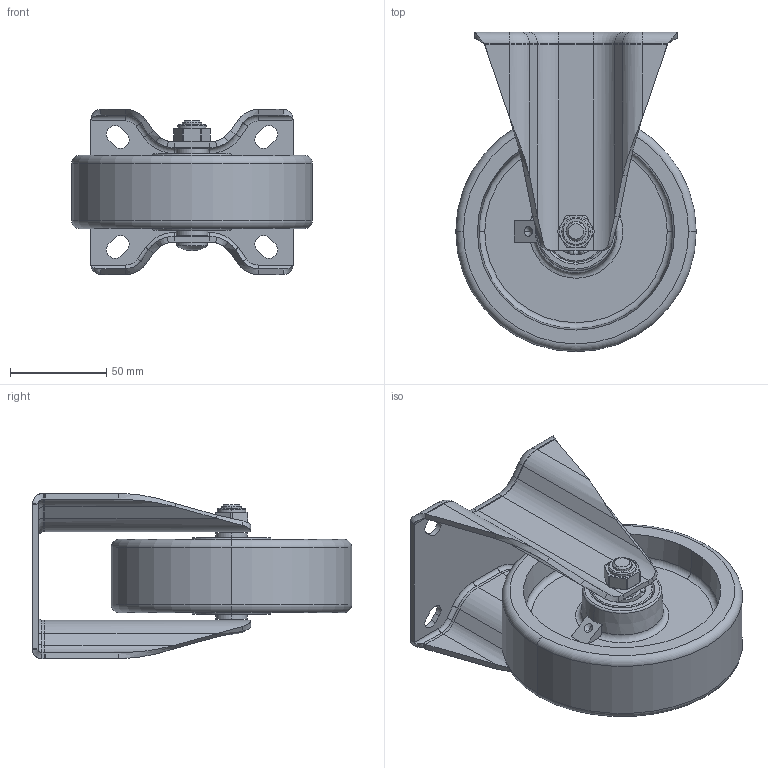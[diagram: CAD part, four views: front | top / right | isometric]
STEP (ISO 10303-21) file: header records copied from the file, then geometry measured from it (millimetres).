
FILE_DESCRIPTION((''),'2;1');
FILE_NAME('66105_ASM','2024-04-27T',('Lenovo'),(''),'PRO/ENGINEER BY PARAMETRIC TECHNOLOGY CORPORATION, 2010280','PRO/ENGINEER BY PARAMETRIC TECHNOLOGY CORPORATION, 2010280','');
FILE_SCHEMA(('CONFIG_CONTROL_DESIGN'));
Length unit declared in the file: millimetre
Products named in the file (9): 645-10; 675-986A; 6201; 500-66; 630-54A; 675-86A_ASM; 630-33A; 630-34; 66105_ASM
Assembly tree (10 placements, depth 3):
  66105_ASM
    645-10
    675-86A_ASM
      675-986A
      6201  x2
      500-66  x2
      630-54A
    630-33A
    630-34
Bounding box: 125 x 166 x 85.97 mm (x, y, z)
Volume: 311378.3 mm3; surface area: 118572.1 mm2
Topology: 37 solids, 37 shells, 405 faces, 932 edges, 502 vertices
Faces by surface type: cylinder 126, plane 116, torus 61, sphere 54, cone 32, bspline 16
Entity records: 10213 total; most frequent: CARTESIAN_POINT 2461, DIRECTION 1715, ORIENTED_EDGE 1460, EDGE_CURVE 730, AXIS2_PLACEMENT_3D 693, VERTEX_POINT 436, EDGE_LOOP 378, FACE_OUTER_BOUND 345
